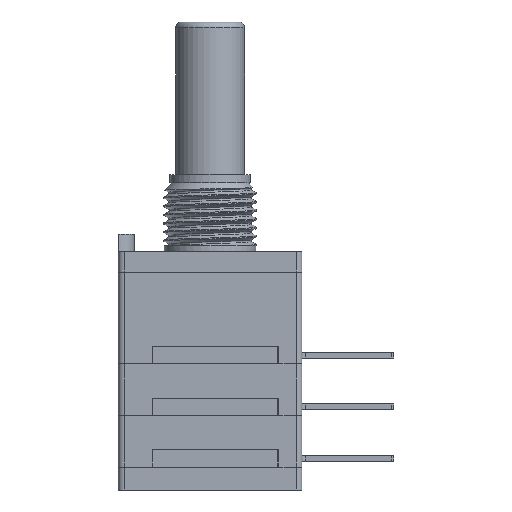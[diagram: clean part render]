
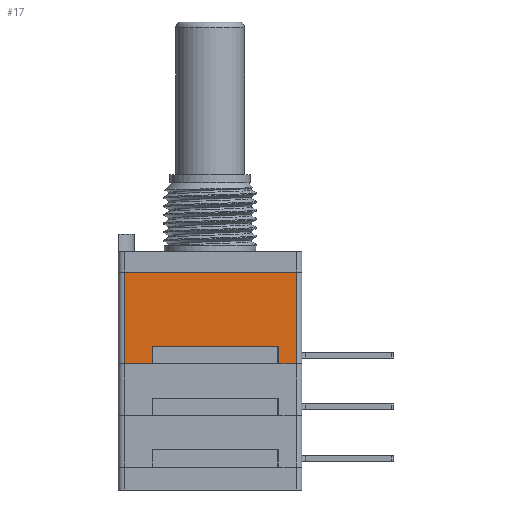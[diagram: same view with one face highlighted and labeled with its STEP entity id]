
A CAD part, left-side view. The second image highlights one B-rep face of the part: STEP entity #17.
In plain terms, the highlighted planar face has unit normal (-1, 0, 0).
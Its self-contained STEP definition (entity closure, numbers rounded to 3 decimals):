
#17 = ADVANCED_FACE('',(#18),#32,.F.);
#18 = FACE_BOUND('',#19,.F.);
#19 = EDGE_LOOP('',(#20,#55,#83,#111,#137,#163,#190,#212,#235));
#20 = ORIENTED_EDGE('',*,*,#21,.F.);
#21 = EDGE_CURVE('',#22,#24,#26,.T.);
#22 = VERTEX_POINT('',#23);
#23 = CARTESIAN_POINT('',(-8.,-7.5,-1.8));
#24 = VERTEX_POINT('',#25);
#25 = CARTESIAN_POINT('',(-8.,7.5,-1.8));
#26 = SURFACE_CURVE('',#27,(#31,#43),.PCURVE_S1.);
#27 = LINE('',#28,#29);
#28 = CARTESIAN_POINT('',(-8.,-8.,-1.8));
#29 = VECTOR('',#30,1.);
#30 = DIRECTION('',(0.,1.,0.));
#31 = PCURVE('',#32,#37);
#32 = PLANE('',#33);
#33 = AXIS2_PLACEMENT_3D('',#34,#35,#36);
#34 = CARTESIAN_POINT('',(-8.,-8.,-9.8));
#35 = DIRECTION('',(1.,0.,0.));
#36 = DIRECTION('',(0.,0.,1.));
#37 = DEFINITIONAL_REPRESENTATION('',(#38),#42);
#38 = LINE('',#39,#40);
#39 = CARTESIAN_POINT('',(8.,0.));
#40 = VECTOR('',#41,1.);
#41 = DIRECTION('',(0.,-1.));
#42 = ( GEOMETRIC_REPRESENTATION_CONTEXT(2) 
PARAMETRIC_REPRESENTATION_CONTEXT() REPRESENTATION_CONTEXT('2D SPACE',''
  ) );
#43 = PCURVE('',#44,#49);
#44 = PLANE('',#45);
#45 = AXIS2_PLACEMENT_3D('',#46,#47,#48);
#46 = CARTESIAN_POINT('',(-8.,-8.,-1.8));
#47 = DIRECTION('',(1.,0.,0.));
#48 = DIRECTION('',(0.,0.,1.));
#49 = DEFINITIONAL_REPRESENTATION('',(#50),#54);
#50 = LINE('',#51,#52);
#51 = CARTESIAN_POINT('',(0.,0.));
#52 = VECTOR('',#53,1.);
#53 = DIRECTION('',(0.,-1.));
#54 = ( GEOMETRIC_REPRESENTATION_CONTEXT(2) 
PARAMETRIC_REPRESENTATION_CONTEXT() REPRESENTATION_CONTEXT('2D SPACE',''
  ) );
#55 = ORIENTED_EDGE('',*,*,#56,.F.);
#56 = EDGE_CURVE('',#57,#22,#59,.T.);
#57 = VERTEX_POINT('',#58);
#58 = CARTESIAN_POINT('',(-8.,-7.5,-9.8));
#59 = SURFACE_CURVE('',#60,(#64,#71),.PCURVE_S1.);
#60 = LINE('',#61,#62);
#61 = CARTESIAN_POINT('',(-8.,-7.5,-9.8));
#62 = VECTOR('',#63,1.);
#63 = DIRECTION('',(0.,0.,1.));
#64 = PCURVE('',#32,#65);
#65 = DEFINITIONAL_REPRESENTATION('',(#66),#70);
#66 = LINE('',#67,#68);
#67 = CARTESIAN_POINT('',(0.,-0.5));
#68 = VECTOR('',#69,1.);
#69 = DIRECTION('',(1.,0.));
#70 = ( GEOMETRIC_REPRESENTATION_CONTEXT(2) 
PARAMETRIC_REPRESENTATION_CONTEXT() REPRESENTATION_CONTEXT('2D SPACE',''
  ) );
#71 = PCURVE('',#72,#77);
#72 = CYLINDRICAL_SURFACE('',#73,0.5);
#73 = AXIS2_PLACEMENT_3D('',#74,#75,#76);
#74 = CARTESIAN_POINT('',(-7.5,-7.5,-9.8));
#75 = DIRECTION('',(0.,0.,1.));
#76 = DIRECTION('',(-1.,0.,0.));
#77 = DEFINITIONAL_REPRESENTATION('',(#78),#82);
#78 = LINE('',#79,#80);
#79 = CARTESIAN_POINT('',(0.,0.));
#80 = VECTOR('',#81,1.);
#81 = DIRECTION('',(0.,1.));
#82 = ( GEOMETRIC_REPRESENTATION_CONTEXT(2) 
PARAMETRIC_REPRESENTATION_CONTEXT() REPRESENTATION_CONTEXT('2D SPACE',''
  ) );
#83 = ORIENTED_EDGE('',*,*,#84,.T.);
#84 = EDGE_CURVE('',#57,#85,#87,.T.);
#85 = VERTEX_POINT('',#86);
#86 = CARTESIAN_POINT('',(-8.,-6.,-9.8));
#87 = SURFACE_CURVE('',#88,(#92,#99),.PCURVE_S1.);
#88 = LINE('',#89,#90);
#89 = CARTESIAN_POINT('',(-8.,-8.,-9.8));
#90 = VECTOR('',#91,1.);
#91 = DIRECTION('',(0.,1.,0.));
#92 = PCURVE('',#32,#93);
#93 = DEFINITIONAL_REPRESENTATION('',(#94),#98);
#94 = LINE('',#95,#96);
#95 = CARTESIAN_POINT('',(0.,0.));
#96 = VECTOR('',#97,1.);
#97 = DIRECTION('',(0.,-1.));
#98 = ( GEOMETRIC_REPRESENTATION_CONTEXT(2) 
PARAMETRIC_REPRESENTATION_CONTEXT() REPRESENTATION_CONTEXT('2D SPACE',''
  ) );
#99 = PCURVE('',#100,#105);
#100 = PLANE('',#101);
#101 = AXIS2_PLACEMENT_3D('',#102,#103,#104);
#102 = CARTESIAN_POINT('',(-8.,-8.,-14.3));
#103 = DIRECTION('',(1.,0.,0.));
#104 = DIRECTION('',(0.,0.,1.));
#105 = DEFINITIONAL_REPRESENTATION('',(#106),#110);
#106 = LINE('',#107,#108);
#107 = CARTESIAN_POINT('',(4.5,0.));
#108 = VECTOR('',#109,1.);
#109 = DIRECTION('',(0.,-1.));
#110 = ( GEOMETRIC_REPRESENTATION_CONTEXT(2) 
PARAMETRIC_REPRESENTATION_CONTEXT() REPRESENTATION_CONTEXT('2D SPACE',''
  ) );
#111 = ORIENTED_EDGE('',*,*,#112,.T.);
#112 = EDGE_CURVE('',#85,#113,#115,.T.);
#113 = VERTEX_POINT('',#114);
#114 = CARTESIAN_POINT('',(-8.,-6.,-8.3));
#115 = SURFACE_CURVE('',#116,(#120,#126),.PCURVE_S1.);
#116 = LINE('',#117,#118);
#117 = CARTESIAN_POINT('',(-8.,-6.,-10.05));
#118 = VECTOR('',#119,1.);
#119 = DIRECTION('',(0.,0.,1.));
#120 = PCURVE('',#32,#121);
#121 = DEFINITIONAL_REPRESENTATION('',(#122),#125);
#122 = B_SPLINE_CURVE_WITH_KNOTS('',1,(#123,#124),.UNSPECIFIED.,.F.,.F.,
  (2,2),(0.25,1.75),.PIECEWISE_BEZIER_KNOTS.);
#123 = CARTESIAN_POINT('',(0.,-2.));
#124 = CARTESIAN_POINT('',(1.5,-2.));
#125 = ( GEOMETRIC_REPRESENTATION_CONTEXT(2) 
PARAMETRIC_REPRESENTATION_CONTEXT() REPRESENTATION_CONTEXT('2D SPACE',''
  ) );
#126 = PCURVE('',#127,#132);
#127 = PLANE('',#128);
#128 = AXIS2_PLACEMENT_3D('',#129,#130,#131);
#129 = CARTESIAN_POINT('',(-9.,-6.,-10.3));
#130 = DIRECTION('',(0.,1.,0.));
#131 = DIRECTION('',(0.,0.,1.));
#132 = DEFINITIONAL_REPRESENTATION('',(#133),#136);
#133 = B_SPLINE_CURVE_WITH_KNOTS('',1,(#134,#135),.UNSPECIFIED.,.F.,.F.,
  (2,2),(0.25,1.75),.PIECEWISE_BEZIER_KNOTS.);
#134 = CARTESIAN_POINT('',(0.5,1.));
#135 = CARTESIAN_POINT('',(2.,1.));
#136 = ( GEOMETRIC_REPRESENTATION_CONTEXT(2) 
PARAMETRIC_REPRESENTATION_CONTEXT() REPRESENTATION_CONTEXT('2D SPACE',''
  ) );
#137 = ORIENTED_EDGE('',*,*,#138,.F.);
#138 = EDGE_CURVE('',#139,#113,#141,.T.);
#139 = VERTEX_POINT('',#140);
#140 = CARTESIAN_POINT('',(-8.,-5.9,-8.3));
#141 = SURFACE_CURVE('',#142,(#146,#152),.PCURVE_S1.);
#142 = LINE('',#143,#144);
#143 = CARTESIAN_POINT('',(-8.,-7.,-8.3));
#144 = VECTOR('',#145,1.);
#145 = DIRECTION('',(0.,-1.,0.));
#146 = PCURVE('',#32,#147);
#147 = DEFINITIONAL_REPRESENTATION('',(#148),#151);
#148 = B_SPLINE_CURVE_WITH_KNOTS('',1,(#149,#150),.UNSPECIFIED.,.F.,.F.,
  (2,2),(-12.,-1.),.PIECEWISE_BEZIER_KNOTS.);
#149 = CARTESIAN_POINT('',(1.5,-13.));
#150 = CARTESIAN_POINT('',(1.5,-2.));
#151 = ( GEOMETRIC_REPRESENTATION_CONTEXT(2) 
PARAMETRIC_REPRESENTATION_CONTEXT() REPRESENTATION_CONTEXT('2D SPACE',''
  ) );
#152 = PCURVE('',#153,#158);
#153 = PLANE('',#154);
#154 = AXIS2_PLACEMENT_3D('',#155,#156,#157);
#155 = CARTESIAN_POINT('',(-9.,-6.,-8.3));
#156 = DIRECTION('',(0.,0.,1.));
#157 = DIRECTION('',(1.,0.,0.));
#158 = DEFINITIONAL_REPRESENTATION('',(#159),#162);
#159 = B_SPLINE_CURVE_WITH_KNOTS('',1,(#160,#161),.UNSPECIFIED.,.F.,.F.,
  (2,2),(-12.,-1.),.PIECEWISE_BEZIER_KNOTS.);
#160 = CARTESIAN_POINT('',(1.,11.));
#161 = CARTESIAN_POINT('',(1.,0.));
#162 = ( GEOMETRIC_REPRESENTATION_CONTEXT(2) 
PARAMETRIC_REPRESENTATION_CONTEXT() REPRESENTATION_CONTEXT('2D SPACE',''
  ) );
#163 = ORIENTED_EDGE('',*,*,#164,.F.);
#164 = EDGE_CURVE('',#165,#139,#167,.T.);
#165 = VERTEX_POINT('',#166);
#166 = CARTESIAN_POINT('',(-8.,5.,-8.3));
#167 = SURFACE_CURVE('',#168,(#172,#178),.PCURVE_S1.);
#168 = LINE('',#169,#170);
#169 = CARTESIAN_POINT('',(-8.,-7.,-8.3));
#170 = VECTOR('',#171,1.);
#171 = DIRECTION('',(0.,-1.,0.));
#172 = PCURVE('',#32,#173);
#173 = DEFINITIONAL_REPRESENTATION('',(#174),#177);
#174 = B_SPLINE_CURVE_WITH_KNOTS('',1,(#175,#176),.UNSPECIFIED.,.F.,.F.,
  (2,2),(-12.,-1.),.PIECEWISE_BEZIER_KNOTS.);
#175 = CARTESIAN_POINT('',(1.5,-13.));
#176 = CARTESIAN_POINT('',(1.5,-2.));
#177 = ( GEOMETRIC_REPRESENTATION_CONTEXT(2) 
PARAMETRIC_REPRESENTATION_CONTEXT() REPRESENTATION_CONTEXT('2D SPACE',''
  ) );
#178 = PCURVE('',#179,#184);
#179 = PLANE('',#180);
#180 = AXIS2_PLACEMENT_3D('',#181,#182,#183);
#181 = CARTESIAN_POINT('',(-8.,-8.,-9.8));
#182 = DIRECTION('',(1.,0.,0.));
#183 = DIRECTION('',(0.,0.,1.));
#184 = DEFINITIONAL_REPRESENTATION('',(#185),#189);
#185 = LINE('',#186,#187);
#186 = CARTESIAN_POINT('',(1.5,-1.));
#187 = VECTOR('',#188,1.);
#188 = DIRECTION('',(0.,1.));
#189 = ( GEOMETRIC_REPRESENTATION_CONTEXT(2) 
PARAMETRIC_REPRESENTATION_CONTEXT() REPRESENTATION_CONTEXT('2D SPACE',''
  ) );
#190 = ORIENTED_EDGE('',*,*,#191,.F.);
#191 = EDGE_CURVE('',#192,#165,#194,.T.);
#192 = VERTEX_POINT('',#193);
#193 = CARTESIAN_POINT('',(-8.,5.,-9.8));
#194 = SURFACE_CURVE('',#195,(#199,#205),.PCURVE_S1.);
#195 = LINE('',#196,#197);
#196 = CARTESIAN_POINT('',(-8.,5.,-10.05));
#197 = VECTOR('',#198,1.);
#198 = DIRECTION('',(0.,0.,1.));
#199 = PCURVE('',#32,#200);
#200 = DEFINITIONAL_REPRESENTATION('',(#201),#204);
#201 = B_SPLINE_CURVE_WITH_KNOTS('',1,(#202,#203),.UNSPECIFIED.,.F.,.F.,
  (2,2),(0.25,1.75),.PIECEWISE_BEZIER_KNOTS.);
#202 = CARTESIAN_POINT('',(0.,-13.));
#203 = CARTESIAN_POINT('',(1.5,-13.));
#204 = ( GEOMETRIC_REPRESENTATION_CONTEXT(2) 
PARAMETRIC_REPRESENTATION_CONTEXT() REPRESENTATION_CONTEXT('2D SPACE',''
  ) );
#205 = PCURVE('',#179,#206);
#206 = DEFINITIONAL_REPRESENTATION('',(#207),#211);
#207 = LINE('',#208,#209);
#208 = CARTESIAN_POINT('',(-0.25,-13.));
#209 = VECTOR('',#210,1.);
#210 = DIRECTION('',(1.,0.));
#211 = ( GEOMETRIC_REPRESENTATION_CONTEXT(2) 
PARAMETRIC_REPRESENTATION_CONTEXT() REPRESENTATION_CONTEXT('2D SPACE',''
  ) );
#212 = ORIENTED_EDGE('',*,*,#213,.T.);
#213 = EDGE_CURVE('',#192,#214,#216,.T.);
#214 = VERTEX_POINT('',#215);
#215 = CARTESIAN_POINT('',(-8.,7.5,-9.8));
#216 = SURFACE_CURVE('',#217,(#221,#228),.PCURVE_S1.);
#217 = LINE('',#218,#219);
#218 = CARTESIAN_POINT('',(-8.,-8.,-9.8));
#219 = VECTOR('',#220,1.);
#220 = DIRECTION('',(0.,1.,0.));
#221 = PCURVE('',#32,#222);
#222 = DEFINITIONAL_REPRESENTATION('',(#223),#227);
#223 = LINE('',#224,#225);
#224 = CARTESIAN_POINT('',(0.,0.));
#225 = VECTOR('',#226,1.);
#226 = DIRECTION('',(0.,-1.));
#227 = ( GEOMETRIC_REPRESENTATION_CONTEXT(2) 
PARAMETRIC_REPRESENTATION_CONTEXT() REPRESENTATION_CONTEXT('2D SPACE',''
  ) );
#228 = PCURVE('',#100,#229);
#229 = DEFINITIONAL_REPRESENTATION('',(#230),#234);
#230 = LINE('',#231,#232);
#231 = CARTESIAN_POINT('',(4.5,0.));
#232 = VECTOR('',#233,1.);
#233 = DIRECTION('',(0.,-1.));
#234 = ( GEOMETRIC_REPRESENTATION_CONTEXT(2) 
PARAMETRIC_REPRESENTATION_CONTEXT() REPRESENTATION_CONTEXT('2D SPACE',''
  ) );
#235 = ORIENTED_EDGE('',*,*,#236,.T.);
#236 = EDGE_CURVE('',#214,#24,#237,.T.);
#237 = SURFACE_CURVE('',#238,(#242,#249),.PCURVE_S1.);
#238 = LINE('',#239,#240);
#239 = CARTESIAN_POINT('',(-8.,7.5,-9.8));
#240 = VECTOR('',#241,1.);
#241 = DIRECTION('',(0.,0.,1.));
#242 = PCURVE('',#32,#243);
#243 = DEFINITIONAL_REPRESENTATION('',(#244),#248);
#244 = LINE('',#245,#246);
#245 = CARTESIAN_POINT('',(0.,-15.5));
#246 = VECTOR('',#247,1.);
#247 = DIRECTION('',(1.,0.));
#248 = ( GEOMETRIC_REPRESENTATION_CONTEXT(2) 
PARAMETRIC_REPRESENTATION_CONTEXT() REPRESENTATION_CONTEXT('2D SPACE',''
  ) );
#249 = PCURVE('',#250,#255);
#250 = CYLINDRICAL_SURFACE('',#251,0.5);
#251 = AXIS2_PLACEMENT_3D('',#252,#253,#254);
#252 = CARTESIAN_POINT('',(-7.5,7.5,-9.8));
#253 = DIRECTION('',(0.,0.,1.));
#254 = DIRECTION('',(-1.,0.,0.));
#255 = DEFINITIONAL_REPRESENTATION('',(#256),#260);
#256 = LINE('',#257,#258);
#257 = CARTESIAN_POINT('',(-0.,0.));
#258 = VECTOR('',#259,1.);
#259 = DIRECTION('',(-0.,1.));
#260 = ( GEOMETRIC_REPRESENTATION_CONTEXT(2) 
PARAMETRIC_REPRESENTATION_CONTEXT() REPRESENTATION_CONTEXT('2D SPACE',''
  ) );
